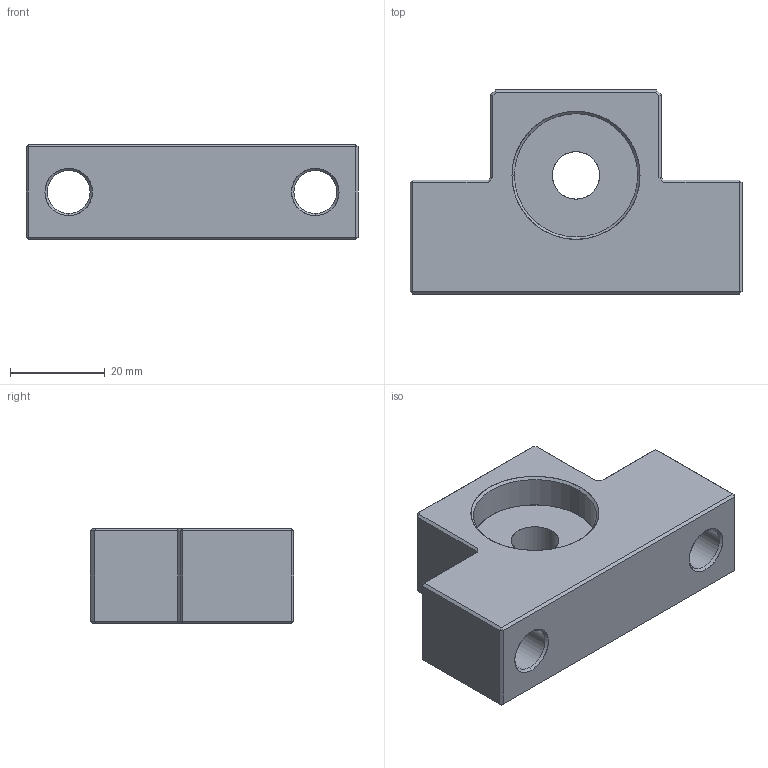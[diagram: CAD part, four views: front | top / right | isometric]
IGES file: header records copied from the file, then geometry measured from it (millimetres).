
Start section: SolidWorks IGES file using analytic representation for surfaces
Global section: file name: E:\同创达图纸\产品示意图\3D选型图\支撑座\EF系列\EF12.IGS; native system: SolidWorks 2012; preprocessor: SolidWorks 2012; author: gao; date: 130702.171354; units: millimetre
Bounding box: 70 x 43 x 20 mm (x, y, z)
Surface area: 11154.1 mm2 (no closed solid volume)
Topology: 0 solids, 0 shells, 74 faces, 632 edges, 632 vertices
Faces by surface type: bspline 52, revolution 22
